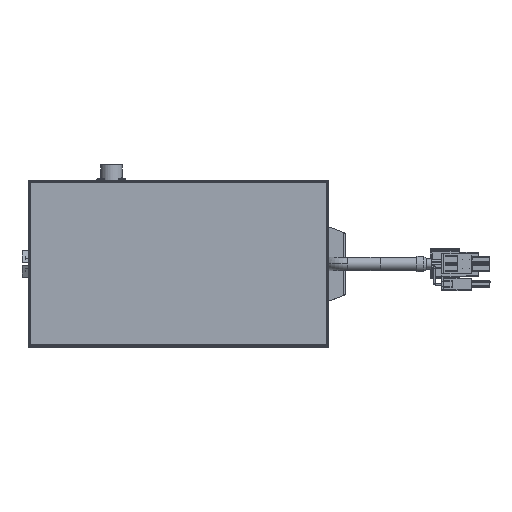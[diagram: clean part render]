
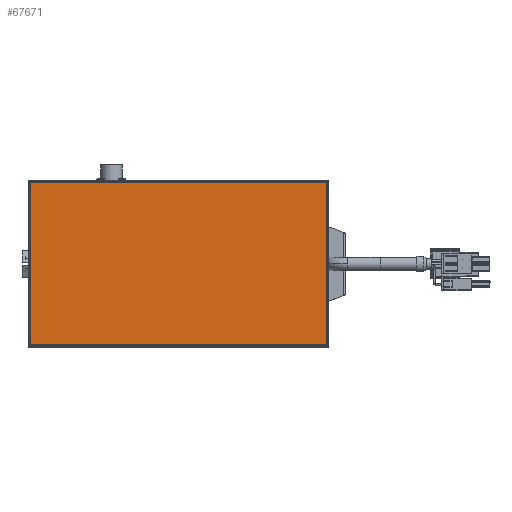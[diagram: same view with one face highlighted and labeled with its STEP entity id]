
A CAD part, top view. The second image highlights one B-rep face of the part: STEP entity #67671.
In plain terms, the highlighted planar face has unit normal (0, 0, 1).
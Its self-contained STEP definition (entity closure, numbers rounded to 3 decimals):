
#67204=CARTESIAN_POINT('',(-40.5,40.5,296.5));
#67205=VERTEX_POINT('',#67204);
#67230=CARTESIAN_POINT('',(106.5,40.5,296.5));
#67231=VERTEX_POINT('',#67230);
#67274=CARTESIAN_POINT('',(-40.5,-40.5,296.5));
#67275=VERTEX_POINT('',#67274);
#67300=CARTESIAN_POINT('',(106.5,-40.5,296.5));
#67301=VERTEX_POINT('',#67300);
#67341=CARTESIAN_POINT('',(106.5,-40.5,296.5));
#67342=DIRECTION('',(-1.,0.,0.));
#67343=VECTOR('',#67342,147.);
#67344=LINE('',#67341,#67343);
#67345=EDGE_CURVE('',#67301,#67275,#67344,.T.);
#67388=CARTESIAN_POINT('',(106.5,40.5,296.5));
#67389=DIRECTION('',(0.,-1.,0.));
#67390=VECTOR('',#67389,81.);
#67391=LINE('',#67388,#67390);
#67392=EDGE_CURVE('',#67231,#67301,#67391,.T.);
#67410=CARTESIAN_POINT('',(-40.5,-40.5,296.5));
#67411=DIRECTION('',(0.,1.,0.));
#67412=VECTOR('',#67411,81.);
#67413=LINE('',#67410,#67412);
#67414=EDGE_CURVE('',#67275,#67205,#67413,.T.);
#67464=CARTESIAN_POINT('',(-40.5,40.5,296.5));
#67465=DIRECTION('',(1.,0.,0.));
#67466=VECTOR('',#67465,147.);
#67467=LINE('',#67464,#67466);
#67468=EDGE_CURVE('',#67205,#67231,#67467,.T.);
#67660=CARTESIAN_POINT('',(33.,0.,296.5));
#67661=DIRECTION('',(-1.,0.,0.));
#67662=DIRECTION('',(0.,0.,1.));
#67663=AXIS2_PLACEMENT_3D('',#67660,#67662,#67661);
#67664=PLANE('',#67663);
#67665=ORIENTED_EDGE('',*,*,#67345,.F.);
#67666=ORIENTED_EDGE('',*,*,#67392,.F.);
#67667=ORIENTED_EDGE('',*,*,#67468,.F.);
#67668=ORIENTED_EDGE('',*,*,#67414,.F.);
#67669=EDGE_LOOP('',(#67665,#67666,#67667,#67668));
#67670=FACE_OUTER_BOUND('',#67669,.T.);
#67671=ADVANCED_FACE('F2875',(#67670),#67664,.T.);
